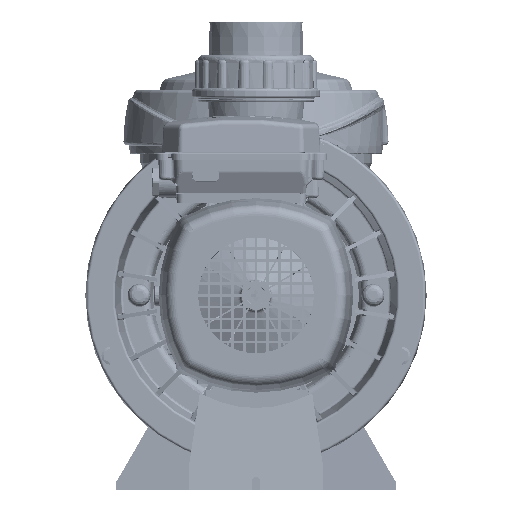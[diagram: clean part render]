
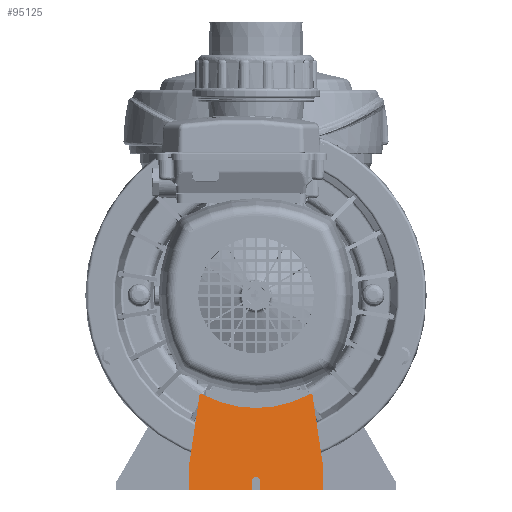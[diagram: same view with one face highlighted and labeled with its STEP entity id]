
A CAD part, front view. The second image highlights one B-rep face of the part: STEP entity #95125.
In plain terms, the highlighted planar face has unit normal (0, 0.989, -0.148).
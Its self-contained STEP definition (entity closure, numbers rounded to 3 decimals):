
#94287=DIRECTION('',(0.,-0.148,-0.989));
#94288=VECTOR('',#94287,17.189);
#94289=CARTESIAN_POINT('',(53.,-149.25,-136.));
#94290=LINE('',#94289,#94288);
#94378=DIRECTION('',(0.,0.148,0.989));
#94379=VECTOR('',#94378,17.189);
#94380=CARTESIAN_POINT('',(-53.,-151.791,-153.));
#94381=LINE('',#94380,#94379);
#94410=CARTESIAN_POINT('',(-43.351,-140.462,-77.2));
#94411=CARTESIAN_POINT('',(-43.928,-140.462,-77.2));
#94412=CARTESIAN_POINT('',(-44.255,-140.505,
-77.487));
#94413=CARTESIAN_POINT('',(-44.34,-140.59,
-78.052));
#94415=DIRECTION('',(-0.146,-0.146,-0.978));
#94416=VECTOR('',#94415,59.228);
#94417=CARTESIAN_POINT('',(-44.34,-140.59,
-78.052));
#94418=LINE('',#94417,#94416);
#94419=DIRECTION('',(1.,0.,0.));
#94420=VECTOR('',#94419,49.875);
#94421=CARTESIAN_POINT('',(-53.,-151.791,-153.));
#94422=LINE('',#94421,#94420);
#94423=DIRECTION('',(1.,0.,0.));
#94424=VECTOR('',#94423,49.875);
#94425=CARTESIAN_POINT('',(3.125,-151.791,-153.));
#94426=LINE('',#94425,#94424);
#94427=DIRECTION('',(-0.146,0.146,0.978));
#94428=VECTOR('',#94427,59.228);
#94429=CARTESIAN_POINT('',(53.,-149.25,-136.));
#94430=LINE('',#94429,#94428);
#94431=CARTESIAN_POINT('',(44.34,-140.59,
-78.052));
#94432=CARTESIAN_POINT('',(44.255,-140.505,
-77.487));
#94433=CARTESIAN_POINT('',(43.928,-140.462,
-77.2));
#94434=CARTESIAN_POINT('',(43.351,-140.462,-77.2));
#94436=DIRECTION('',(-1.,0.,0.));
#94437=VECTOR('',#94436,0.473);
#94438=CARTESIAN_POINT('',(43.351,-140.462,-77.2));
#94439=LINE('',#94438,#94437);
#94440=CARTESIAN_POINT('',(42.878,-140.462,-77.2));
#94441=CARTESIAN_POINT('',(42.092,-140.529,
-77.645));
#94442=CARTESIAN_POINT('',(41.299,-140.593,
-78.078));
#94443=CARTESIAN_POINT('',(40.5,-140.656,
-78.498));
#94445=CARTESIAN_POINT('',(40.507,-140.655,
-78.495));
#94446=CARTESIAN_POINT('',(36.336,-140.983,
-80.69));
#94447=CARTESIAN_POINT('',(27.749,-141.532,
-84.352));
#94448=CARTESIAN_POINT('',(14.032,-142.038,
-87.747));
#94449=CARTESIAN_POINT('',(-0.002,-142.207,
-88.877));
#94450=CARTESIAN_POINT('',(-14.035,-142.038,
-87.747));
#94451=CARTESIAN_POINT('',(-27.753,-141.531,
-84.351));
#94452=CARTESIAN_POINT('',(-36.337,-140.983,
-80.689));
#94453=CARTESIAN_POINT('',(-40.507,-140.655,
-78.495));
#94455=CARTESIAN_POINT('',(-40.5,-140.656,-78.498));
#94456=CARTESIAN_POINT('',(-41.299,-140.593,
-78.078));
#94457=CARTESIAN_POINT('',(-42.092,-140.529,
-77.645));
#94458=CARTESIAN_POINT('',(-42.878,-140.462,-77.2));
#94460=DIRECTION('',(-1.,0.,0.));
#94461=VECTOR('',#94460,0.473);
#94462=CARTESIAN_POINT('',(-42.878,-140.462,-77.2));
#94463=LINE('',#94462,#94461);
#94477=DIRECTION('',(0.,0.148,0.989));
#94478=VECTOR('',#94477,7.078);
#94479=CARTESIAN_POINT('',(-3.125,-151.791,-153.));
#94480=LINE('',#94479,#94478);
#94676=DIRECTION('',(0.,-0.148,-0.989));
#94677=VECTOR('',#94676,7.078);
#94678=CARTESIAN_POINT('',(3.125,-150.745,-146.));
#94679=LINE('',#94678,#94677);
#94688=CARTESIAN_POINT('',(3.125,-150.745,-146.));
#94689=CARTESIAN_POINT('',(3.125,-150.634,-145.263));
#94690=CARTESIAN_POINT('',(2.66,-150.44,
-143.965));
#94691=CARTESIAN_POINT('',(1.155,-150.297,
-143.008));
#94692=CARTESIAN_POINT('',(0.,-150.268,
-142.808));
#94693=CARTESIAN_POINT('',(-1.155,-150.297,
-143.008));
#94694=CARTESIAN_POINT('',(-2.66,-150.44,
-143.965));
#94695=CARTESIAN_POINT('',(-3.125,-150.634,-145.263));
#94696=CARTESIAN_POINT('',(-3.125,-150.745,-146.));
#94764=CARTESIAN_POINT('',(43.351,-140.462,-77.2));
#94765=CARTESIAN_POINT('',(42.878,-140.462,
-77.2));
#94766=VERTEX_POINT('',#94764);
#94767=VERTEX_POINT('',#94765);
#94768=CARTESIAN_POINT('',(-42.878,-140.462,-77.2));
#94769=CARTESIAN_POINT('',(-43.351,-140.462,-77.2));
#94770=VERTEX_POINT('',#94768);
#94771=VERTEX_POINT('',#94769);
#94798=CARTESIAN_POINT('',(40.507,-140.655,
-78.495));
#94800=VERTEX_POINT('',#94798);
#94801=CARTESIAN_POINT('',(-40.521,-140.65,
-78.487));
#94802=VERTEX_POINT('',#94801);
#94817=CARTESIAN_POINT('',(-3.125,-151.791,-153.));
#94818=VERTEX_POINT('',#94817);
#94819=CARTESIAN_POINT('',(-53.,-151.791,-153.));
#94820=VERTEX_POINT('',#94819);
#94823=CARTESIAN_POINT('',(53.,-151.791,-153.));
#94824=VERTEX_POINT('',#94823);
#94825=CARTESIAN_POINT('',(3.125,-151.791,-153.));
#94826=VERTEX_POINT('',#94825);
#94835=CARTESIAN_POINT('',(-3.125,-150.745,-146.));
#94836=VERTEX_POINT('',#94835);
#94858=VERTEX_POINT('',#94688);
#94859=VERTEX_POINT('',#94413);
#94860=VERTEX_POINT('',#94431);
#94861=CARTESIAN_POINT('',(53.,-149.25,-136.));
#94862=VERTEX_POINT('',#94861);
#94863=CARTESIAN_POINT('',(-53.,-149.25,-136.));
#94864=VERTEX_POINT('',#94863);
#95092=CARTESIAN_POINT('',(0.,-146.126,-115.1));
#95093=DIRECTION('',(0.,0.989,-0.148));
#95094=DIRECTION('',(1.,0.,0.));
#95095=AXIS2_PLACEMENT_3D('',#95092,#95093,#95094);
#95096=PLANE('',#95095);
#95098=ORIENTED_EDGE('',*,*,#95097,.T.);
#95099=ORIENTED_EDGE('',*,*,#95044,.T.);
#95100=ORIENTED_EDGE('',*,*,#95065,.F.);
#95101=ORIENTED_EDGE('',*,*,#94891,.T.);
#95103=ORIENTED_EDGE('',*,*,#95102,.T.);
#95105=ORIENTED_EDGE('',*,*,#95104,.F.);
#95107=ORIENTED_EDGE('',*,*,#95106,.T.);
#95108=ORIENTED_EDGE('',*,*,#94963,.T.);
#95109=ORIENTED_EDGE('',*,*,#94983,.F.);
#95110=ORIENTED_EDGE('',*,*,#95002,.T.);
#95112=ORIENTED_EDGE('',*,*,#95111,.T.);
#95114=ORIENTED_EDGE('',*,*,#95113,.T.);
#95116=ORIENTED_EDGE('',*,*,#95115,.T.);
#95118=ORIENTED_EDGE('',*,*,#95117,.T.);
#95120=ORIENTED_EDGE('',*,*,#95119,.T.);
#95122=ORIENTED_EDGE('',*,*,#95121,.T.);
#95123=EDGE_LOOP('',(#95098,#95099,#95100,#95101,#95103,#95105,#95107,#95108,
#95109,#95110,#95112,#95114,#95116,#95118,#95120,#95122));
#95124=FACE_OUTER_BOUND('',#95123,.F.);
#95125=ADVANCED_FACE('',(#95124),#95096,.T.);
#94414=B_SPLINE_CURVE_WITH_KNOTS('',3,(#94410,#94411,#94412,#94413),
.UNSPECIFIED.,.F.,.F.,(4,4),(0.,1.),.UNSPECIFIED.);
#94435=B_SPLINE_CURVE_WITH_KNOTS('',3,(#94431,#94432,#94433,#94434),
.UNSPECIFIED.,.F.,.F.,(4,4),(0.,1.),.UNSPECIFIED.);
#94444=B_SPLINE_CURVE_WITH_KNOTS('',3,(#94440,#94441,#94442,#94443),
.UNSPECIFIED.,.F.,.F.,(4,4),(0.,1.),.UNSPECIFIED.);
#94454=B_SPLINE_CURVE_WITH_KNOTS('',3,(#94445,#94446,#94447,#94448,#94449,
#94450,#94451,#94452,#94453),.UNSPECIFIED.,.F.,.F.,(4,1,1,1,1,1,4),(0.,
0.167,0.333,0.5,0.667,0.833,
1.),.UNSPECIFIED.);
#94459=B_SPLINE_CURVE_WITH_KNOTS('',3,(#94455,#94456,#94457,#94458),
.UNSPECIFIED.,.F.,.F.,(4,4),(0.,1.),.UNSPECIFIED.);
#94697=B_SPLINE_CURVE_WITH_KNOTS('',3,(#94688,#94689,#94690,#94691,#94692,
#94693,#94694,#94695,#94696),.UNSPECIFIED.,.F.,.F.,(4,1,1,1,1,1,4),(0.,0.25,
0.375,0.5,0.625,0.75,1.),.UNSPECIFIED.);
#94891=EDGE_CURVE('',#94820,#94818,#94422,.T.);
#94963=EDGE_CURVE('',#94826,#94824,#94426,.T.);
#94983=EDGE_CURVE('',#94862,#94824,#94290,.T.);
#95002=EDGE_CURVE('',#94862,#94860,#94430,.T.);
#95044=EDGE_CURVE('',#94859,#94864,#94418,.T.);
#95065=EDGE_CURVE('',#94820,#94864,#94381,.T.);
#95097=EDGE_CURVE('',#94771,#94859,#94414,.T.);
#95102=EDGE_CURVE('',#94818,#94836,#94480,.T.);
#95104=EDGE_CURVE('',#94858,#94836,#94697,.T.);
#95106=EDGE_CURVE('',#94858,#94826,#94679,.T.);
#95111=EDGE_CURVE('',#94860,#94766,#94435,.T.);
#95113=EDGE_CURVE('',#94766,#94767,#94439,.T.);
#95115=EDGE_CURVE('',#94767,#94800,#94444,.T.);
#95117=EDGE_CURVE('',#94800,#94802,#94454,.T.);
#95119=EDGE_CURVE('',#94802,#94770,#94459,.T.);
#95121=EDGE_CURVE('',#94770,#94771,#94463,.T.);
